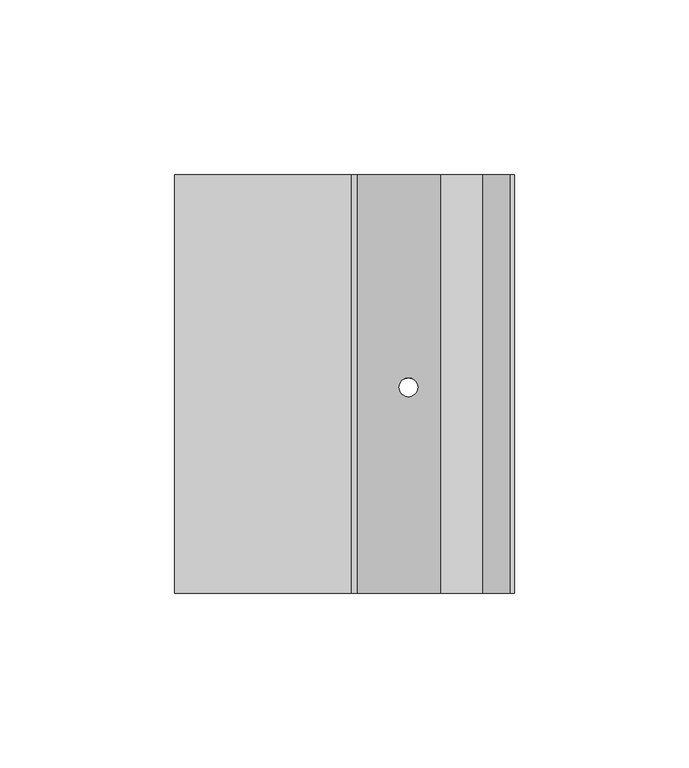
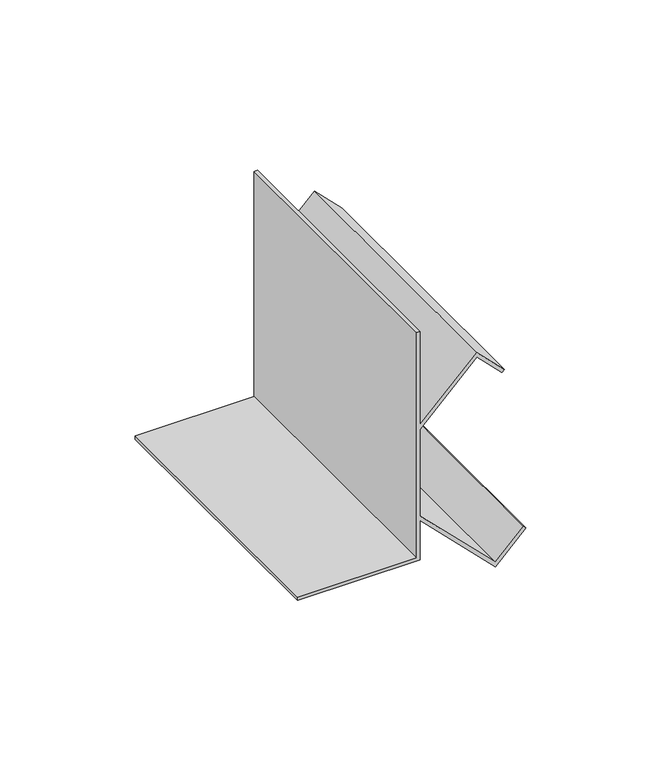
"""IFC4 building model written with IfcOpenShell, lengths in millimetres: proxy geometry, Mechanical Fittings & Accessories40 : Mechanical Fittings & Accessories."""

from ifc_helpers import new_model, si_unit, frame, origin, place, context, project, spatial, polyline, ellipse_curve, source, transform, mapped, element, save
from ifc_brep_helpers import plane_surface, revolved_surface, advanced_brep


def generic_models_776e6ab7(model_context):
    return source(origin(), model_context, "Body", "AdvancedBrep", [
        advanced_brep(
        [(-14670.9639562, 12023.4963986, 4114.8), (-14721.7639562, 12023.4963986, 4114.8), (-14721.7639562, 12023.4963986, 4113.3117188), (-14669.475675, 12023.4963986, 4113.3117188), (-14669.475675, 12023.4963986, 4131.1383509), (-14637.365914, 12023.4963986, 4099.0285899), (-14624.3869427, 12023.4963986, 4112.0075612), (-14625.4393164, 12023.4963986, 4113.059935), (-14637.365914, 12023.4963986, 4101.1333374), (-14669.475675, 12023.4963986, 4133.2430984), (-14669.475675, 12023.4963986, 4172.2761118), (-14645.303414, 12023.4963986, 4196.4483729), (-14634.5674414, 12023.4963986, 4185.7124003), (-14633.5150677, 12023.4963986, 4186.7647741), (-14645.303414, 12023.4963986, 4198.5531204), (-14669.475675, 12023.4963986, 4174.3808594), (-14669.475675, 12023.4963986, 4216.4), (-14670.9639562, 12023.4963986, 4216.4), (-14670.9639562, 12143.4645457, 4114.8), (-14670.9639562, 12143.4645457, 4216.4), (-14669.475675, 12143.4645457, 4216.4), (-14669.475675, 12143.4645457, 4174.3808594), (-14645.303414, 12143.4645457, 4198.5531204), (-14633.5150677, 12143.4645457, 4186.7647741), (-14634.5674414, 12143.4645457, 4185.7124003), (-14645.303414, 12143.4645457, 4196.4483729), (-14669.475675, 12143.4645457, 4172.2761118), (-14669.475675, 12143.4645457, 4133.2430984), (-14637.365914, 12143.4645457, 4101.1333374), (-14625.4393164, 12143.4645457, 4113.059935), (-14624.3869427, 12143.4645457, 4112.0075612), (-14637.365914, 12143.4645457, 4099.0285899), (-14669.475675, 12143.4645457, 4131.1383509), (-14669.475675, 12143.4645457, 4113.3117188), (-14721.7639562, 12143.4645457, 4113.3117188), (-14721.7639562, 12143.4645457, 4114.8), (-14657.3617646, 12082.5191481, 4119.0244406), (-14652.0223978, 12082.5191481, 4113.6850737), (-14652.0223978, 12082.5191481, 4115.7898213), (-14657.3617646, 12082.5191481, 4121.1291881), (-14657.3617646, 12082.5191481, 4184.3900222), (-14652.0223978, 12082.5191481, 4189.729389), (-14652.0223978, 12082.5191481, 4191.8341365), (-14657.3617646, 12082.5191481, 4186.4947697)],
        [
            (0, 1),
            (1, 2),
            (2, 3),
            (3, 4),
            (4, 5),
            (5, 6),
            (6, 7),
            (7, 8),
            (8, 9),
            (9, 10),
            (10, 11),
            (11, 12),
            (12, 13),
            (13, 14),
            (14, 15),
            (15, 16),
            (16, 17),
            (17, 0),
            (18, 19),
            (19, 20),
            (20, 21),
            (21, 22),
            (22, 23),
            (23, 24),
            (24, 25),
            (25, 26),
            (26, 27),
            (27, 28),
            (28, 29),
            (29, 30),
            (30, 31),
            (31, 32),
            (32, 33),
            (33, 34),
            (34, 35),
            (35, 18),
            (0, 18),
            (35, 1),
            (34, 2),
            (33, 3),
            (32, 4),
            (31, 5),
            (36, 37, ellipse_curve(frame((-14654.6920812, 12082.5191481, 4116.3547571), z_axis=(0.7071067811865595, 0.0, 0.7071067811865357), x_axis=(-0.7071067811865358, 0.0, 0.7071067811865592)), 3.7755025, 2.6696834)),
            (37, 36, ellipse_curve(frame((-14654.6920812, 12082.5191481, 4116.3547571), z_axis=(0.7071067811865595, 0.0, 0.7071067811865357), x_axis=(-0.7071067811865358, 0.0, 0.7071067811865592)), 3.7755025, 2.6696834)),
            (30, 6),
            (29, 7),
            (28, 8),
            (27, 9),
            (38, 39, ellipse_curve(frame((-14654.6920812, 12082.5191481, 4118.4595047), z_axis=(-0.7071067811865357, 0.0, -0.7071067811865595), x_axis=(-0.7071067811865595, 0.0, 0.7071067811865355)), 3.7755025, 2.6696834)),
            (39, 38, ellipse_curve(frame((-14654.6920812, 12082.5191481, 4118.4595047), z_axis=(-0.7071067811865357, 0.0, -0.7071067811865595), x_axis=(-0.7071067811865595, 0.0, 0.7071067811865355)), 3.7755025, 2.6696834)),
            (26, 10),
            (25, 11),
            (40, 41, ellipse_curve(frame((-14654.6920812, 12082.5191481, 4187.0597056), z_axis=(-0.7071067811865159, 0.0, 0.7071067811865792), x_axis=(0.7071067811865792, 0.0, 0.7071067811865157)), 3.7755025, 2.6696834)),
            (41, 40, ellipse_curve(frame((-14654.6920812, 12082.5191481, 4187.0597056), z_axis=(-0.7071067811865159, 0.0, 0.7071067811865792), x_axis=(0.7071067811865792, 0.0, 0.7071067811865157)), 3.7755025, 2.6696834)),
            (24, 12),
            (23, 13),
            (22, 14),
            (21, 15),
            (42, 43, ellipse_curve(frame((-14654.6920812, 12082.5191481, 4189.1644531), z_axis=(0.7071067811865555, 0.0, -0.7071067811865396), x_axis=(0.7071067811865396, 0.0, 0.7071067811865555)), 3.7755025, 2.6696834)),
            (43, 42, ellipse_curve(frame((-14654.6920812, 12082.5191481, 4189.1644531), z_axis=(0.7071067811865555, 0.0, -0.7071067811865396), x_axis=(0.7071067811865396, 0.0, 0.7071067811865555)), 3.7755025, 2.6696834)),
            (20, 16),
            (19, 17),
            (36, 39),
            (38, 37),
            (40, 43),
            (42, 41),
        ],
        [
            plane_surface(frame((-14721.7639562, 12023.4963986, 4114.8), z_axis=(0.0, -1.0, 0.0), x_axis=(-1.0, 0.0, 0.0))),
            plane_surface(frame((-14721.7639562, 12143.4645457, 4114.8), z_axis=(0.0, 1.0, 0.0), x_axis=(1.0, 0.0, 0.0))),
            plane_surface(frame((-14670.9639562, 12023.4963986, 4114.8), z_axis=(0.0, 0.0, 1.0), x_axis=(0.0, 1.0, 0.0))),
            plane_surface(frame((-14721.7639562, 12023.4963986, 4114.8), z_axis=(-1.0, 0.0, 0.0), x_axis=(0.0, 1.0, 0.0))),
            plane_surface(frame((-14721.7639562, 12023.4963986, 4113.3117188), z_axis=(0.0, 0.0, -1.0), x_axis=(0.0, 1.0, 0.0))),
            plane_surface(frame((-14669.475675, 12023.4963986, 4113.3117188), z_axis=(1.0, 0.0, 0.0), x_axis=(0.0, 1.0, 0.0))),
            plane_surface(frame((-14669.475675, 12023.4963986, 4131.1383509), z_axis=(-0.7071067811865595, 0.0, -0.7071067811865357), x_axis=(0.0, 1.0, 0.0))),
            plane_surface(frame((-14637.365914, 12023.4963986, 4099.0285899), z_axis=(0.7071067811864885, 0.0, -0.7071067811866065), x_axis=(0.0, 1.0, 0.0))),
            plane_surface(frame((-14624.3869427, 12023.4963986, 4112.0075612), z_axis=(0.7071067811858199, 0.0, 0.7071067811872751), x_axis=(0.0, 1.0, 0.0))),
            plane_surface(frame((-14625.4393164, 12023.4963986, 4113.059935), z_axis=(-0.7071067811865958, 0.0, 0.7071067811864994), x_axis=(0.0, 1.0, 0.0))),
            plane_surface(frame((-14637.365914, 12023.4963986, 4101.1333374), z_axis=(0.7071067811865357, 0.0, 0.7071067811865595), x_axis=(0.0, 1.0, 0.0))),
            plane_surface(frame((-14669.475675, 12023.4963986, 4133.2430984), z_axis=(1.0, 0.0, 0.0), x_axis=(0.0, 1.0, 0.0))),
            plane_surface(frame((-14669.475675, 12023.4963986, 4172.2761118), z_axis=(0.7071067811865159, 0.0, -0.7071067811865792), x_axis=(0.0, 1.0, 0.0))),
            plane_surface(frame((-14645.303414, 12023.4963986, 4196.4483729), z_axis=(-0.7071067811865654, 0.0, -0.7071067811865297), x_axis=(0.0, 1.0, 0.0))),
            plane_surface(frame((-14634.5674414, 12023.4963986, 4185.7124003), z_axis=(0.7071067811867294, 0.0, -0.7071067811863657), x_axis=(0.0, 1.0, 0.0))),
            plane_surface(frame((-14633.5150677, 12023.4963986, 4186.7647741), z_axis=(0.707106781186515, 0.0, 0.70710678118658), x_axis=(0.0, 1.0, 0.0))),
            plane_surface(frame((-14645.303414, 12023.4963986, 4198.5531204), z_axis=(-0.7071067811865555, 0.0, 0.7071067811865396), x_axis=(0.0, 1.0, 0.0))),
            plane_surface(frame((-14669.475675, 12023.4963986, 4174.3808594), z_axis=(1.0, 0.0, 0.0), x_axis=(0.0, 1.0, 0.0))),
            plane_surface(frame((-14669.475675, 12023.4963986, 4216.4), z_axis=(0.0, 0.0, 1.0), x_axis=(0.0, 1.0, 0.0))),
            plane_surface(frame((-14670.9639562, 12023.4963986, 4216.4), z_axis=(-1.0, 0.0, 0.0), x_axis=(0.0, 1.0, 0.0))),
            revolved_surface(polyline([(-14652.022397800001, 12082.5191481, 4121.129188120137), (-14652.022397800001, 12082.5191481, 4113.685073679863)]), (-14654.6920812, 12082.5191481, 4097.2034211), (0.0, 0.0, 1.0)),
            revolved_surface(polyline([(-14652.022397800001, 12082.5191481, 4191.834136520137), (-14652.022397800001, 12082.5191481, 4184.390022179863)]), (-14654.6920812, 12082.5191481, 4097.2034211), (0.0, 0.0, 1.0)),
        ],
        [
            (0, [[1, 2, 3, 4, 5, 6, 7, 8, 9, 10, 11, 12, 13, 14, 15, 16, 17, 18]]),
            (1, [[19, 20, 21, 22, 23, 24, 25, 26, 27, 28, 29, 30, 31, 32, 33, 34, 35, 36]]),
            (2, [[-1, 37, -36, 38]]),
            (3, [[-2, -38, -35, 39]]),
            (4, [[-3, -39, -34, 40]]),
            (5, [[-4, -40, -33, 41]]),
            (6, [[-5, -41, -32, 42], [43, 44]]),
            (7, [[-6, -42, -31, 45]]),
            (8, [[-7, -45, -30, 46]]),
            (9, [[-8, -46, -29, 47]]),
            (10, [[-9, -47, -28, 48], [49, 50]]),
            (11, [[-10, -48, -27, 51]]),
            (12, [[-11, -51, -26, 52], [53, 54]]),
            (13, [[-12, -52, -25, 55]]),
            (14, [[-13, -55, -24, 56]]),
            (15, [[-14, -56, -23, 57]]),
            (16, [[-15, -57, -22, 58], [59, 60]]),
            (17, [[-16, -58, -21, 61]]),
            (18, [[-17, -61, -20, 62]]),
            (19, [[-18, -62, -19, -37]]),
            (20, [[63, -49, 64, -43]]),
            (21, [[65, -59, 66, -53]]),
            (20, [[-63, -44, -64, -50]]),
            (21, [[-65, -54, -66, -60]]),
        ],
    ),
    ])


if __name__ == "__main__":
    model = new_model("IFC4")
    model_context = context("Model", 3, world=origin())
    ifc_project = project(units=[si_unit("LENGTHUNIT", "METRE", prefix="MILLI")], contexts=[model_context])
    site = spatial("IfcSite", under=ifc_project)
    building = spatial("IfcBuilding", under=site)
    placement = place(None, origin())
    generic_models_shape = generic_models_776e6ab7(model_context)
    element("IfcBuildingElementProxy", 1, Name="Mechanical Fittings & Accessories40 : Mechanical Fittings & Accessories", ObjectType="Mechanical Fittings & Accessories40 : Mechanical Fittings & Accessories", at=placement, inside=building, context=model_context, shape_type="MappedRepresentation", body=[
        mapped(generic_models_shape, transform((0.0, 0.0, 0.0), x_axis=(1.0, 0.0, 0.0), y_axis=(0.0, 1.0, 0.0), z_axis=(0.0, 0.0, 1.0))),
    ])
    save(model, "model.ifc")
